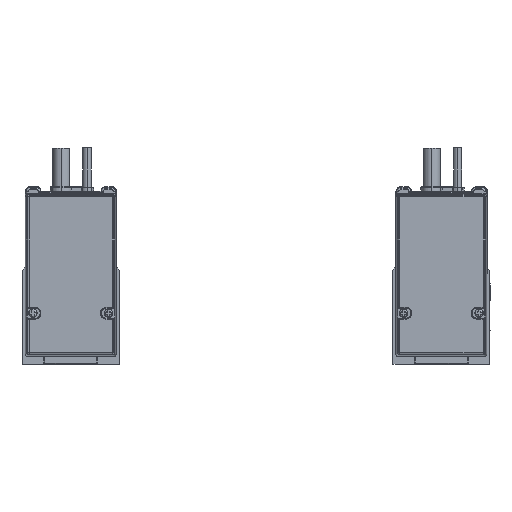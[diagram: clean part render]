
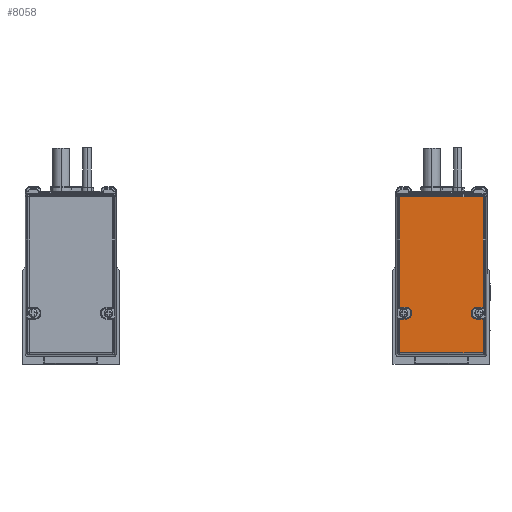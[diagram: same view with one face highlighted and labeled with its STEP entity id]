
A CAD part, left-side view. The second image highlights one B-rep face of the part: STEP entity #8058.
In plain terms, the highlighted planar face has unit normal (-1, 0, 0).
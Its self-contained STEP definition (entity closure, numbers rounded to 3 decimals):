
#8058=ADVANCED_FACE('',(#18392),#18393,.F.);
#18392=FACE_OUTER_BOUND('',#35874,.T.);
#18393=PLANE('',#35875);
#35874=EDGE_LOOP('',(#63481,#63482,#63483,#63484,#63485,#63486,#63487,#63488,#63489,#63490,#63491,#63492,#63493,#63494,#63495,#63496));
#35875=AXIS2_PLACEMENT_3D('',#63497,#63498,#63499);
#63481=ORIENTED_EDGE('',*,*,#96205,.F.);
#63482=ORIENTED_EDGE('',*,*,#96206,.F.);
#63483=ORIENTED_EDGE('',*,*,#96156,.F.);
#63484=ORIENTED_EDGE('',*,*,#91918,.F.);
#63485=ORIENTED_EDGE('',*,*,#96207,.F.);
#63486=ORIENTED_EDGE('',*,*,#96208,.F.);
#63487=ORIENTED_EDGE('',*,*,#96209,.F.);
#63488=ORIENTED_EDGE('',*,*,#92522,.F.);
#63489=ORIENTED_EDGE('',*,*,#95625,.F.);
#63490=ORIENTED_EDGE('',*,*,#88803,.F.);
#63491=ORIENTED_EDGE('',*,*,#89183,.F.);
#63492=ORIENTED_EDGE('',*,*,#96210,.F.);
#63493=ORIENTED_EDGE('',*,*,#96211,.F.);
#63494=ORIENTED_EDGE('',*,*,#91551,.F.);
#63495=ORIENTED_EDGE('',*,*,#94778,.F.);
#63496=ORIENTED_EDGE('',*,*,#96212,.F.);
#63497=CARTESIAN_POINT('',(1511.3,11.59,536.038));
#63498=DIRECTION('',(1.0,0.0,0.0));
#63499=DIRECTION('',(0.0,1.0,0.));
#88803=EDGE_CURVE('',#104632,#104634,#104635,.T.);
#89183=EDGE_CURVE('',#105306,#104632,#105308,.T.);
#91551=EDGE_CURVE('',#109409,#109411,#109412,.T.);
#91918=EDGE_CURVE('',#110032,#110034,#110035,.T.);
#92522=EDGE_CURVE('',#111043,#111045,#111046,.T.);
#94778=EDGE_CURVE('',#114672,#109409,#114674,.T.);
#95625=EDGE_CURVE('',#104634,#111043,#115966,.T.);
#96156=EDGE_CURVE('',#110034,#107558,#116744,.T.);
#96205=EDGE_CURVE('',#107613,#116815,#116816,.T.);
#96206=EDGE_CURVE('',#107558,#107613,#116817,.T.);
#96207=EDGE_CURVE('',#116818,#110032,#116819,.T.);
#96208=EDGE_CURVE('',#116820,#116818,#116821,.T.);
#96209=EDGE_CURVE('',#111045,#116820,#116822,.T.);
#96210=EDGE_CURVE('',#113148,#105306,#116823,.T.);
#96211=EDGE_CURVE('',#109411,#113148,#116824,.T.);
#96212=EDGE_CURVE('',#116815,#114672,#116825,.T.);
#104632=VERTEX_POINT('',#127447);
#104634=VERTEX_POINT('',#127449);
#104635=LINE('',#127450,#127451);
#105306=VERTEX_POINT('',#128411);
#105308=LINE('',#128413,#128414);
#107558=VERTEX_POINT('',#131756);
#107613=VERTEX_POINT('',#131830);
#109409=VERTEX_POINT('',#134324);
#109411=VERTEX_POINT('',#134326);
#109412=CIRCLE('',#134327,2.5);
#110032=VERTEX_POINT('',#135202);
#110034=VERTEX_POINT('',#135204);
#110035=LINE('',#135205,#135206);
#111043=VERTEX_POINT('',#136564);
#111045=VERTEX_POINT('',#136566);
#111046=CIRCLE('',#136567,2.5);
#113148=VERTEX_POINT('',#139634);
#114672=VERTEX_POINT('',#141891);
#114674=LINE('',#141893,#141894);
#115966=LINE('',#143811,#143812);
#116744=LINE('',#145122,#145123);
#116815=VERTEX_POINT('',#145208);
#116816=LINE('',#145209,#145210);
#116817=LINE('',#145211,#145212);
#116818=VERTEX_POINT('',#145213);
#116819=LINE('',#145214,#145215);
#116820=VERTEX_POINT('',#145216);
#116821=CIRCLE('',#145217,2.5);
#116822=LINE('',#145218,#145219);
#116823=LINE('',#145220,#145221);
#116824=LINE('',#145222,#145223);
#116825=CIRCLE('',#145224,2.5);
#127447=CARTESIAN_POINT('',(1511.3,-7.72,570.666));
#127449=CARTESIAN_POINT('',(1511.3,-7.72,519.492));
#127450=CARTESIAN_POINT('',(1511.3,-7.72,536.038));
#127451=VECTOR('',#158998,1.0);
#128411=CARTESIAN_POINT('',(1511.3,30.9,570.666));
#128413=CARTESIAN_POINT('',(1511.3,10.34,570.666));
#128414=VECTOR('',#159490,1.0);
#131756=CARTESIAN_POINT('',(1511.3,30.9,498.482));
#131830=CARTESIAN_POINT('',(1511.3,30.9,514.092));
#134324=CARTESIAN_POINT('',(1511.3,25.39,516.992));
#134326=CARTESIAN_POINT('',(1511.3,27.89,519.492));
#134327=AXIS2_PLACEMENT_3D('',#162699,#162700,#162701);
#135202=CARTESIAN_POINT('',(1511.3,-7.72,514.092));
#135204=CARTESIAN_POINT('',(1511.3,-7.72,498.482));
#135205=CARTESIAN_POINT('',(1511.3,-7.72,536.038));
#135206=VECTOR('',#163215,1.0);
#136564=CARTESIAN_POINT('',(1511.3,-4.71,519.492));
#136566=CARTESIAN_POINT('',(1511.3,-2.21,516.992));
#136567=AXIS2_PLACEMENT_3D('',#164020,#164021,#164022);
#139634=CARTESIAN_POINT('',(1511.3,30.9,519.492));
#141891=CARTESIAN_POINT('',(1511.3,25.39,516.592));
#141893=CARTESIAN_POINT('',(1511.3,25.39,526.415));
#141894=VECTOR('',#167144,1.0);
#143811=CARTESIAN_POINT('',(1511.3,2.84,519.492));
#143812=VECTOR('',#168307,1.0);
#145122=CARTESIAN_POINT('',(1511.3,11.59,498.482));
#145123=VECTOR('',#169001,1.0);
#145208=CARTESIAN_POINT('',(1511.3,27.89,514.092));
#145209=CARTESIAN_POINT('',(1511.3,20.34,514.092));
#145210=VECTOR('',#169082,1.0);
#145211=CARTESIAN_POINT('',(1511.3,30.9,538.216));
#145212=VECTOR('',#169083,1.0);
#145213=CARTESIAN_POINT('',(1511.3,-4.71,514.092));
#145214=CARTESIAN_POINT('',(1511.3,2.84,514.092));
#145215=VECTOR('',#169084,1.0);
#145216=CARTESIAN_POINT('',(1511.3,-2.21,516.592));
#145217=AXIS2_PLACEMENT_3D('',#169085,#169086,#169087);
#145218=CARTESIAN_POINT('',(1511.3,-2.21,526.415));
#145219=VECTOR('',#169088,1.0);
#145220=CARTESIAN_POINT('',(1511.3,30.9,538.216));
#145221=VECTOR('',#169089,1.0);
#145222=CARTESIAN_POINT('',(1511.3,20.34,519.492));
#145223=VECTOR('',#169090,1.0);
#145224=AXIS2_PLACEMENT_3D('',#169091,#169092,#169093);
#158998=DIRECTION('',(0.0,0.,-1.0));
#159490=DIRECTION('',(0.0,-1.0,0.0));
#162699=CARTESIAN_POINT('',(1511.3,27.89,516.992));
#162700=DIRECTION('',(-1.0,0.0,0.0));
#162701=DIRECTION('',(0.0,-0.707,0.707));
#163215=DIRECTION('',(0.0,0.,-1.0));
#164020=CARTESIAN_POINT('',(1511.3,-4.71,516.992));
#164021=DIRECTION('',(-1.0,0.0,0.0));
#164022=DIRECTION('',(0.0,0.707,0.707));
#167144=DIRECTION('',(0.0,0.0,1.0));
#168307=DIRECTION('',(0.0,1.0,0.0));
#169001=DIRECTION('',(0.0,1.0,0.0));
#169082=DIRECTION('',(0.0,-1.0,0.0));
#169083=DIRECTION('',(0.0,0.,1.0));
#169084=DIRECTION('',(0.0,-1.0,0.0));
#169085=CARTESIAN_POINT('',(1511.3,-4.71,516.592));
#169086=DIRECTION('',(-1.0,0.0,0.0));
#169087=DIRECTION('',(0.0,0.707,-0.707));
#169088=DIRECTION('',(0.0,0.0,-1.0));
#169089=DIRECTION('',(0.0,0.,1.0));
#169090=DIRECTION('',(0.0,1.0,0.0));
#169091=CARTESIAN_POINT('',(1511.3,27.89,516.592));
#169092=DIRECTION('',(-1.0,0.0,0.0));
#169093=DIRECTION('',(0.0,-0.707,-0.707));
